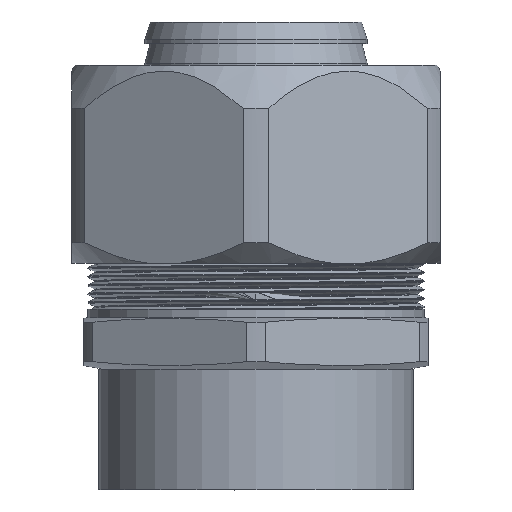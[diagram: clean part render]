
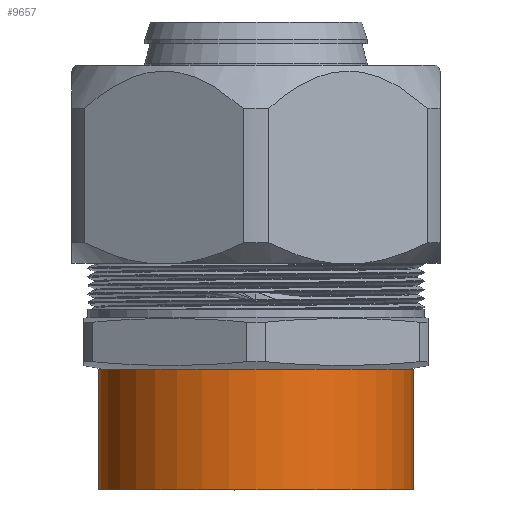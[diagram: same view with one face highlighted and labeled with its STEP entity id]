
A CAD part, front view. The second image highlights one B-rep face of the part: STEP entity #9657.
In plain terms, the highlighted cylindrical face has radius 18.25 mm (diameter 36.5 mm), a full revolution.
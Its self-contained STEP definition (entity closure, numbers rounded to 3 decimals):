
#1012=CYLINDRICAL_SURFACE('',#10330,18.25);
#1126=LINE('',#12721,#1709);
#1709=VECTOR('',#10963,18.25);
#2404=FACE_OUTER_BOUND('',#2962,.T.);
#2962=EDGE_LOOP('',(#6495,#6496,#6497,#6498,#6499));
#3552=CIRCLE('',#10290,18.25);
#3576=CIRCLE('',#10331,18.25);
#3577=CIRCLE('',#10332,18.25);
#3812=VERTEX_POINT('',#12592);
#3848=VERTEX_POINT('',#12720);
#3849=VERTEX_POINT('',#12722);
#4855=EDGE_CURVE('',#3812,#3812,#3552,.T.);
#4906=EDGE_CURVE('',#3812,#3848,#1126,.T.);
#4907=EDGE_CURVE('',#3848,#3849,#3576,.T.);
#4908=EDGE_CURVE('',#3849,#3848,#3577,.T.);
#6495=ORIENTED_EDGE('',*,*,#4855,.T.);
#6496=ORIENTED_EDGE('',*,*,#4906,.T.);
#6497=ORIENTED_EDGE('',*,*,#4907,.T.);
#6498=ORIENTED_EDGE('',*,*,#4908,.T.);
#6499=ORIENTED_EDGE('',*,*,#4906,.F.);
#9657=ADVANCED_FACE('',(#2404),#1012,.T.);
#10290=AXIS2_PLACEMENT_3D('',#12593,#10866,#10867);
#10330=AXIS2_PLACEMENT_3D('',#12719,#10961,#10962);
#10331=AXIS2_PLACEMENT_3D('',#12723,#10964,#10965);
#10332=AXIS2_PLACEMENT_3D('',#12724,#10966,#10967);
#10866=DIRECTION('center_axis',(0.,0.,-1.));
#10867=DIRECTION('ref_axis',(0.,-1.,0.));
#10961=DIRECTION('center_axis',(0.,0.,1.));
#10962=DIRECTION('ref_axis',(0.,-1.,0.));
#10963=DIRECTION('',(0.,0.,-1.));
#10964=DIRECTION('center_axis',(0.,0.,1.));
#10965=DIRECTION('ref_axis',(1.,0.,0.));
#10966=DIRECTION('center_axis',(0.,0.,1.));
#10967=DIRECTION('ref_axis',(1.,0.,0.));
#12592=CARTESIAN_POINT('',(0.,18.25,14.01));
#12593=CARTESIAN_POINT('Origin',(0.,0.,14.01));
#12719=CARTESIAN_POINT('Origin',(0.,0.,10.01));
#12720=CARTESIAN_POINT('',(0.,18.25,0.01));
#12721=CARTESIAN_POINT('',(0.,18.25,10.01));
#12722=CARTESIAN_POINT('',(0.,-18.25,0.01));
#12723=CARTESIAN_POINT('Origin',(0.,0.,0.01));
#12724=CARTESIAN_POINT('Origin',(0.,0.,0.01));
